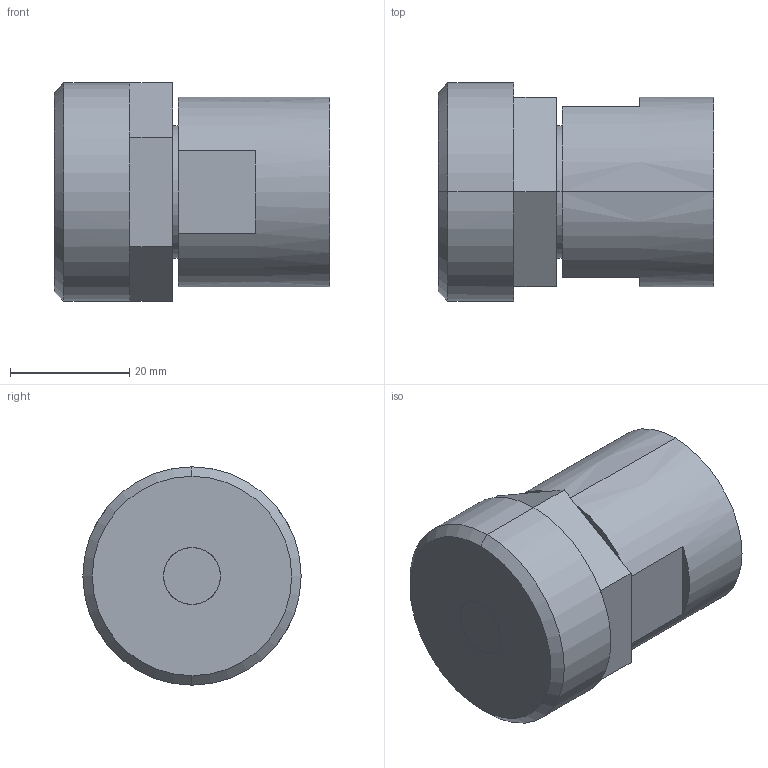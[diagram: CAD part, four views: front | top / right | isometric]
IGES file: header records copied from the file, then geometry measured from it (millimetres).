
Start section: SolidWorks IGES file using analytic representation for surfaces
Global section: file name: S:\Product Visuals\REVISED-30L-TOP-MOUNT-FITTINGS\IGS\top-straight-outlet-only\fnpt\06-fnpt-with-top-mount-adapter.IGS; native system: SolidWorks 2012; preprocessor: SolidWorks 2012; author: rachel.dressel; date: 121127.155620; units: inch
Bounding box: 46.15 x 36.6 x 36.66 mm (x, y, z)
Volume: 36001.9 mm3; surface area: 8767.9 mm2
Topology: 1 solids, 1 shells, 41 faces, 120 edges, 86 vertices
Faces by surface type: plane 28, revolution 12, bspline 1
